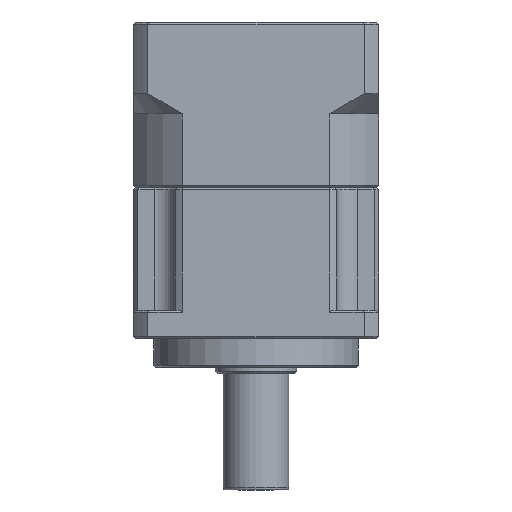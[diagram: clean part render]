
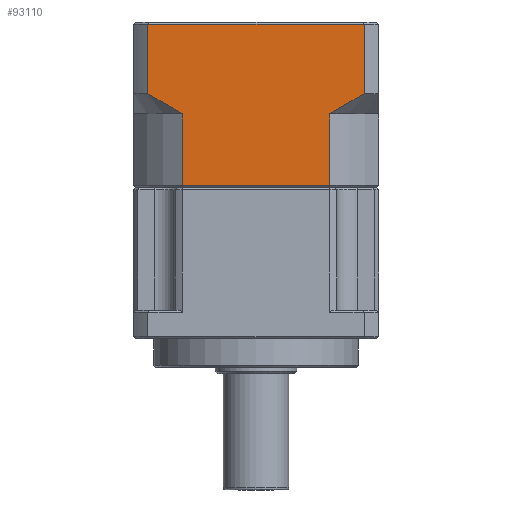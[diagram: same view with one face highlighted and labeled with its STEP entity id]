
A CAD part, front view. The second image highlights one B-rep face of the part: STEP entity #93110.
In plain terms, the highlighted planar face has unit normal (0, -1, 0).
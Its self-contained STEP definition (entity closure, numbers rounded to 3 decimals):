
#3600 = EDGE_CURVE ( 'NONE', #95596, #28124, #36959, .T. ) ;
#4164 = CARTESIAN_POINT ( 'NONE',  ( 3.51, -27.039, 132.225 ) ) ;
#7651 = CARTESIAN_POINT ( 'NONE',  ( -2.175, -27.039, 111.502 ) ) ;
#9611 = EDGE_LOOP ( 'NONE', ( #33231, #100628, #47261, #27375, #26598, #25621, #19937, #104799 ) ) ;
#10709 = EDGE_CURVE ( 'NONE', #39606, #44102, #85014, .T. ) ;
#10956 = CARTESIAN_POINT ( 'NONE',  ( -38.231, -27.039, 111.502 ) ) ;
#12666 = CARTESIAN_POINT ( 'NONE',  ( 0.704, -27.039, 130.551 ) ) ;
#13609 = B_SPLINE_CURVE_WITH_KNOTS ( 'NONE', 3,
 ( #71787, #81396, #98481, #47687, #107031, #56243 ),
 .UNSPECIFIED., .F., .F.,
 ( 4, 2, 4 ),
 ( 0., 0.005, 0.01 ),
 .UNSPECIFIED. ) ;
#16292 = CARTESIAN_POINT ( 'NONE',  ( -2.175, -27.039, 129.002 ) ) ;
#17071 = DIRECTION ( 'NONE',  ( 0., 0., 1. ) ) ;
#19937 = ORIENTED_EDGE ( 'NONE', *, *, #78763, .F. ) ;
#21222 = CARTESIAN_POINT ( 'NONE',  ( -2.175, -27.039, 129.002 ) ) ;
#22511 = CARTESIAN_POINT ( 'NONE',  ( -46.661, -27.039, 134.002 ) ) ;
#24128 = CARTESIAN_POINT ( 'NONE',  ( 6.254, -27.039, 151.002 ) ) ;
#25372 = EDGE_CURVE ( 'NONE', #44102, #60421, #91976, .T. ) ;
#25621 = ORIENTED_EDGE ( 'NONE', *, *, #10709, .F. ) ;
#26598 = ORIENTED_EDGE ( 'NONE', *, *, #25372, .F. ) ;
#27375 = ORIENTED_EDGE ( 'NONE', *, *, #67391, .F. ) ;
#28124 = VERTEX_POINT ( 'NONE', #16292 ) ;
#31960 = VECTOR ( 'NONE', #36806, 1000. ) ;
#32764 = DIRECTION ( 'NONE',  ( 0., 0., -1. ) ) ;
#33231 = ORIENTED_EDGE ( 'NONE', *, *, #95521, .F. ) ;
#33579 = FACE_OUTER_BOUND ( 'NONE', #9611, .T. ) ;
#33751 = CARTESIAN_POINT ( 'NONE',  ( -46.661, -27.039, 91.775 ) ) ;
#36806 = DIRECTION ( 'NONE',  ( 1., 0., 0. ) ) ;
#36959 = B_SPLINE_CURVE_WITH_KNOTS ( 'NONE', 3,
 ( #63460, #96422, #4164, #12666, #71976, #21222 ),
 .UNSPECIFIED., .F., .F.,
 ( 4, 2, 4 ),
 ( 0., 0.005, 0.01 ),
 .UNSPECIFIED. ) ;
#39606 = VERTEX_POINT ( 'NONE', #7651 ) ;
#41157 = LINE ( 'NONE', #75043, #103456 ) ;
#42135 = CARTESIAN_POINT ( 'NONE',  ( 6.254, -27.039, 91.775 ) ) ;
#42234 = CARTESIAN_POINT ( 'NONE',  ( 9.797, -27.039, 111.002 ) ) ;
#43875 = CARTESIAN_POINT ( 'NONE',  ( -38.231, -27.039, 129.002 ) ) ;
#44102 = VERTEX_POINT ( 'NONE', #10956 ) ;
#44235 = VECTOR ( 'NONE', #102959, 1000. ) ;
#44936 = LINE ( 'NONE', #42135, #109976 ) ;
#45047 = DIRECTION ( 'NONE',  ( -1., 0., 0. ) ) ;
#47261 = ORIENTED_EDGE ( 'NONE', *, *, #74247, .F. ) ;
#47687 = CARTESIAN_POINT ( 'NONE',  ( -43.916, -27.039, 132.225 ) ) ;
#50624 = PLANE ( 'NONE',  #63602 ) ;
#50766 = DIRECTION ( 'NONE',  ( 0., 0., -1. ) ) ;
#53228 = CARTESIAN_POINT ( 'NONE',  ( 9.797, -27.039, 111.502 ) ) ;
#56243 = CARTESIAN_POINT ( 'NONE',  ( -46.661, -27.039, 134.002 ) ) ;
#57325 = VECTOR ( 'NONE', #17071, 1000. ) ;
#57503 = VERTEX_POINT ( 'NONE', #24128 ) ;
#57849 = VERTEX_POINT ( 'NONE', #22511 ) ;
#59922 = CARTESIAN_POINT ( 'NONE',  ( 6.254, -27.039, 134.002 ) ) ;
#60421 = VERTEX_POINT ( 'NONE', #43875 ) ;
#62475 = VECTOR ( 'NONE', #45047, 1000. ) ;
#63460 = CARTESIAN_POINT ( 'NONE',  ( 6.254, -27.039, 134.002 ) ) ;
#63602 = AXIS2_PLACEMENT_3D ( 'NONE', #42234, #101505, #50766 ) ;
#67391 = EDGE_CURVE ( 'NONE', #60421, #57849, #13609, .T. ) ;
#71787 = CARTESIAN_POINT ( 'NONE',  ( -38.231, -27.039, 129.002 ) ) ;
#71976 = CARTESIAN_POINT ( 'NONE',  ( -0.721, -27.039, 129.751 ) ) ;
#74247 = EDGE_CURVE ( 'NONE', #57849, #81790, #102412, .T. ) ;
#75043 = CARTESIAN_POINT ( 'NONE',  ( -2.175, -27.039, 91.775 ) ) ;
#78763 = EDGE_CURVE ( 'NONE', #28124, #39606, #41157, .T. ) ;
#78890 = CARTESIAN_POINT ( 'NONE',  ( -46.661, -27.039, 151.002 ) ) ;
#79103 = CARTESIAN_POINT ( 'NONE',  ( 9.797, -27.039, 151.002 ) ) ;
#81396 = CARTESIAN_POINT ( 'NONE',  ( -39.686, -27.039, 129.751 ) ) ;
#81790 = VERTEX_POINT ( 'NONE', #78890 ) ;
#84361 = DIRECTION ( 'NONE',  ( 0., 0., -1. ) ) ;
#85014 = LINE ( 'NONE', #53228, #62475 ) ;
#91976 = LINE ( 'NONE', #94404, #44235 ) ;
#93110 = ADVANCED_FACE ( 'NONE', ( #33579 ), #50624, .T. ) ;
#94404 = CARTESIAN_POINT ( 'NONE',  ( -38.231, -27.039, 91.775 ) ) ;
#95521 = EDGE_CURVE ( 'NONE', #57503, #95596, #44936, .T. ) ;
#95596 = VERTEX_POINT ( 'NONE', #59922 ) ;
#96422 = CARTESIAN_POINT ( 'NONE',  ( 4.89, -27.039, 133.1 ) ) ;
#98481 = CARTESIAN_POINT ( 'NONE',  ( -41.111, -27.039, 130.551 ) ) ;
#99585 = LINE ( 'NONE', #79103, #31960 ) ;
#100120 = EDGE_CURVE ( 'NONE', #81790, #57503, #99585, .T. ) ;
#100628 = ORIENTED_EDGE ( 'NONE', *, *, #100120, .F. ) ;
#101505 = DIRECTION ( 'NONE',  ( 0., -1., 0. ) ) ;
#102412 = LINE ( 'NONE', #33751, #57325 ) ;
#102959 = DIRECTION ( 'NONE',  ( 0., 0., 1. ) ) ;
#103456 = VECTOR ( 'NONE', #32764, 1000. ) ;
#104799 = ORIENTED_EDGE ( 'NONE', *, *, #3600, .F. ) ;
#107031 = CARTESIAN_POINT ( 'NONE',  ( -45.297, -27.039, 133.1 ) ) ;
#109976 = VECTOR ( 'NONE', #84361, 1000. ) ;
